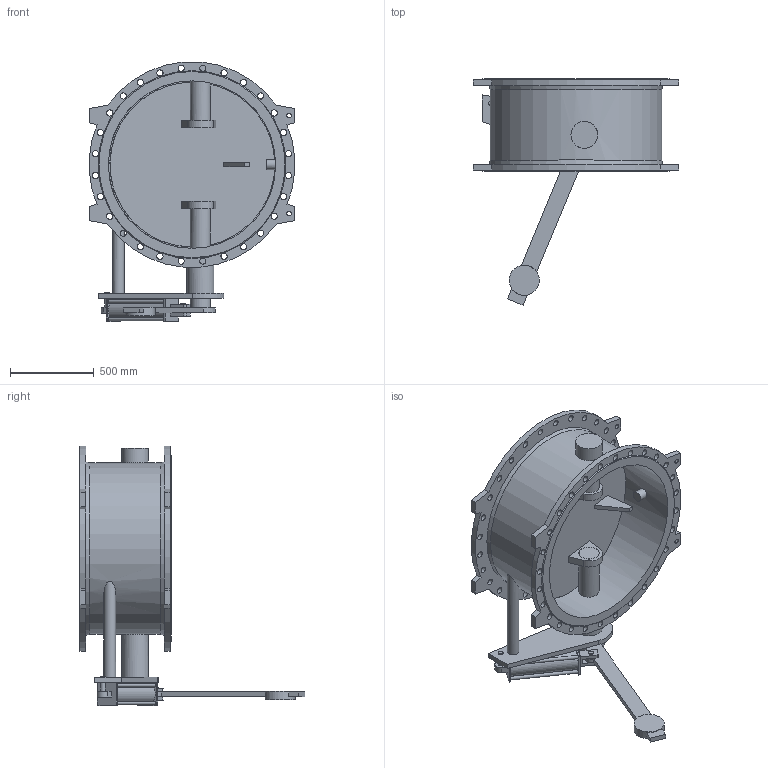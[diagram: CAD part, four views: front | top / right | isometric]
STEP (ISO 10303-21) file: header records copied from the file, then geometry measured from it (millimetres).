
FILE_DESCRIPTION(('STEP AP203'), '1');
FILE_NAME('Êëàïàí 015F.PV DN1000 PN10 ñ ïðîòèâîâåñîì ñ äåìïôåðîì', '', ('UNSPECIFIED'), ('UNSPECIFIED'), 'ASCON STEP Converter 1.6', 'ASCON Math Kernel', '');
FILE_SCHEMA(('CONFIG_CONTROL_DESIGN'));
Length unit declared in the file: millimetre
Bounding box: 1230 x 1350 x 1552.68 mm (x, y, z)
Volume: 91253744.5 mm3; surface area: 8688387.4 mm2
Topology: 1 solids, 1 shells, 223 faces, 577 edges, 383 vertices
Faces by surface type: cylinder 114, plane 100, cone 4, extrusion 2, torus 2, bspline 1
Full cylindrical faces by diameter (mm): 20 x5, 28 x4, 30 x9, 37 x56, 45 x1, 60 x1, 70 x1, 120 x4, 122 x2, 160 x2, 180 x1, 1000 x1, 1026 x1
Entity records: 10386 total; most frequent: CARTESIAN_POINT 3048, DIRECTION 1122, ORIENTED_EDGE 948, EDGE_LOOP 494, EDGE_CURVE 474, AXIS2_PLACEMENT_3D 453, VERTEX_POINT 382, FACE_BOUND 306
